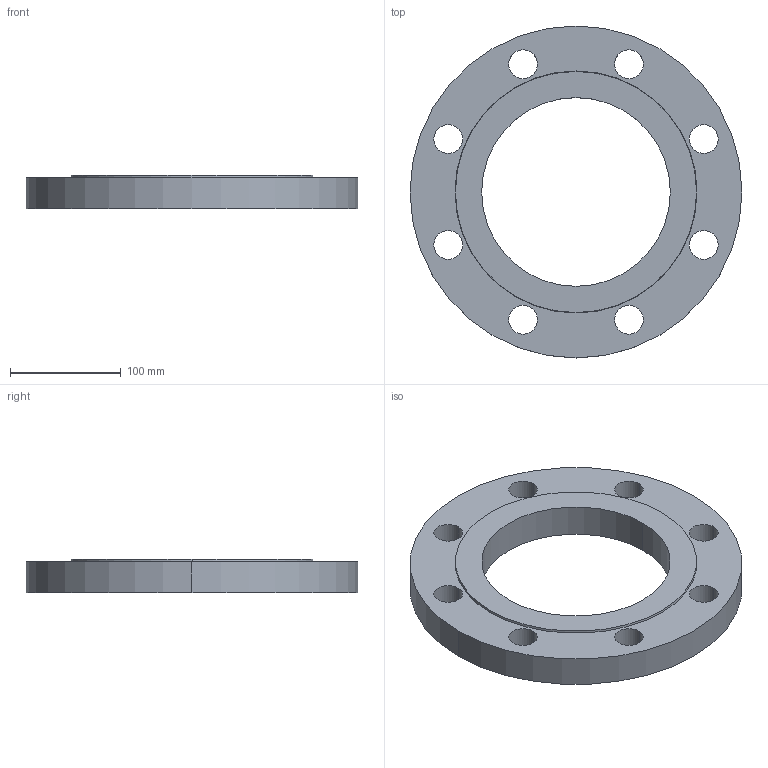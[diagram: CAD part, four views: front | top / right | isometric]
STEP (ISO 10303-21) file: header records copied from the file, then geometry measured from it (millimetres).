
FILE_DESCRIPTION (( 'STEP AP214' ), '1' );
FILE_NAME ('PN40 DN150 Type 01 - Type B Face.STEP', '2019-01-05T00:26:40', ( '' ), ( '' ), 'SwSTEP 2.0', 'SolidWorks 2019', '' );
FILE_SCHEMA (( 'AUTOMOTIVE_DESIGN' ));
Length unit declared in the file: millimetre
Products named in the file (1): PN40 DN150 Type 01 - Type B Face
Bounding box: 300 x 300 x 30 mm (x, y, z)
Volume: 1250215.9 mm3; surface area: 149119.8 mm2
Topology: 1 solids, 1 shells, 25 faces, 66 edges, 44 vertices
Faces by surface type: cylinder 20, plane 3, cone 2
Entity records: 874 total; most frequent: DIRECTION 162, CARTESIAN_POINT 136, ORIENTED_EDGE 132, AXIS2_PLACEMENT_3D 70, EDGE_CURVE 66, CIRCLE 44, EDGE_LOOP 44, VERTEX_POINT 44
